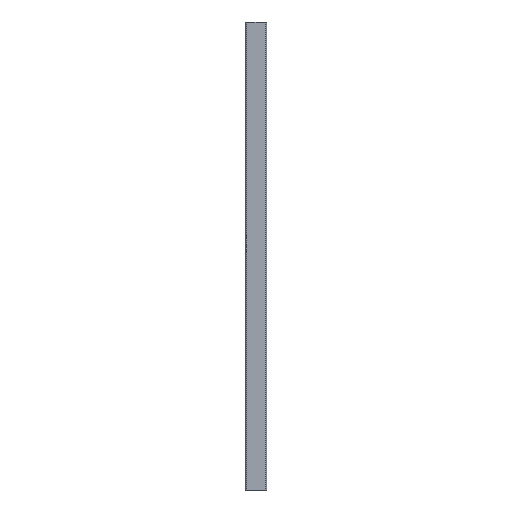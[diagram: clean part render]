
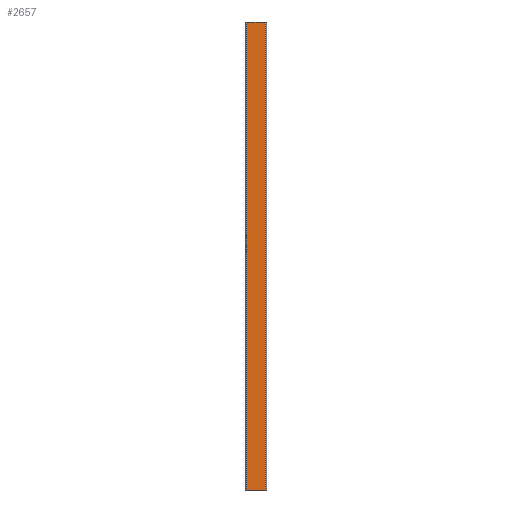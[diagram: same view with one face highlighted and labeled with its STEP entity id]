
A CAD part, left-side view. The second image highlights one B-rep face of the part: STEP entity #2657.
In plain terms, the highlighted planar face has unit normal (-1, 0, 0).
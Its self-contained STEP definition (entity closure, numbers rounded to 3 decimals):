
#267 = CARTESIAN_POINT ( 'NONE',  ( -22.5, -19.5, 500. ) ) ;
#280 = DIRECTION ( 'NONE',  ( 0., 0., 1. ) ) ;
#312 = LINE ( 'NONE', #3118, #1049 ) ;
#346 = VECTOR ( 'NONE', #437, 1000. ) ;
#405 = DIRECTION ( 'NONE',  ( 0., -1., 0. ) ) ;
#415 = VERTEX_POINT ( 'NONE', #1933 ) ;
#437 = DIRECTION ( 'NONE',  ( 0., 0., -1. ) ) ;
#686 = LINE ( 'NONE', #1694, #4112 ) ;
#964 = AXIS2_PLACEMENT_3D ( 'NONE', #2845, #1425, #3527 ) ;
#1049 = VECTOR ( 'NONE', #3402, 1000. ) ;
#1090 = VECTOR ( 'NONE', #405, 1000. ) ;
#1425 = DIRECTION ( 'NONE',  ( 1., 0., 0. ) ) ;
#1427 = ORIENTED_EDGE ( 'NONE', *, *, #4186, .T. ) ;
#1470 = ORIENTED_EDGE ( 'NONE', *, *, #3420, .T. ) ;
#1496 = EDGE_CURVE ( 'NONE', #2065, #4064, #2448, .T. ) ;
#1694 = CARTESIAN_POINT ( 'NONE',  ( -22.5, -19.5, 500. ) ) ;
#1881 = CARTESIAN_POINT ( 'NONE',  ( -22.5, 19.5, 500. ) ) ;
#1933 = CARTESIAN_POINT ( 'NONE',  ( -22.5, -19.5, -500. ) ) ;
#2065 = VERTEX_POINT ( 'NONE', #2972 ) ;
#2129 = CARTESIAN_POINT ( 'NONE',  ( -22.5, -22.5, 500. ) ) ;
#2448 = LINE ( 'NONE', #2129, #1090 ) ;
#2462 = LINE ( 'NONE', #1881, #346 ) ;
#2657 = ADVANCED_FACE ( 'NONE', ( #3095 ), #4102, .F. ) ;
#2845 = CARTESIAN_POINT ( 'NONE',  ( -22.5, -22.5, 500. ) ) ;
#2972 = CARTESIAN_POINT ( 'NONE',  ( -22.5, 19.5, 500. ) ) ;
#3095 = FACE_OUTER_BOUND ( 'NONE', #3930, .T. ) ;
#3118 = CARTESIAN_POINT ( 'NONE',  ( -22.5, -22.5, -500. ) ) ;
#3402 = DIRECTION ( 'NONE',  ( 0., -1., 0. ) ) ;
#3420 = EDGE_CURVE ( 'NONE', #415, #4064, #686, .T. ) ;
#3513 = CARTESIAN_POINT ( 'NONE',  ( -22.5, 19.5, -500. ) ) ;
#3527 = DIRECTION ( 'NONE',  ( 0., 0., -1. ) ) ;
#3655 = ORIENTED_EDGE ( 'NONE', *, *, #1496, .F. ) ;
#3926 = VERTEX_POINT ( 'NONE', #3513 ) ;
#3930 = EDGE_LOOP ( 'NONE', ( #1427, #1470, #3655, #4213 ) ) ;
#3939 = EDGE_CURVE ( 'NONE', #2065, #3926, #2462, .T. ) ;
#4064 = VERTEX_POINT ( 'NONE', #267 ) ;
#4102 = PLANE ( 'NONE',  #964 ) ;
#4112 = VECTOR ( 'NONE', #280, 1000. ) ;
#4186 = EDGE_CURVE ( 'NONE', #3926, #415, #312, .T. ) ;
#4213 = ORIENTED_EDGE ( 'NONE', *, *, #3939, .T. ) ;
